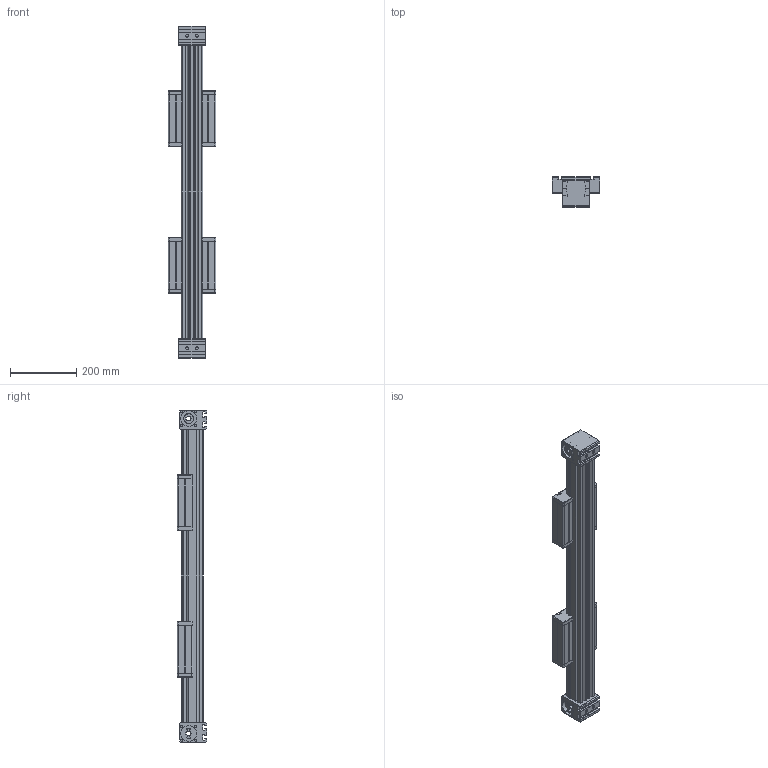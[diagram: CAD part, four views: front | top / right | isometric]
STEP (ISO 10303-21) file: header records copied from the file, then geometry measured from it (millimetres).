
FILE_DESCRIPTION (( 'STEP AP214' ), '1' );
FILE_NAME ('ELZZ60.STEP', '2022-07-19T13:12:46', ( '' ), ( '' ), 'SwSTEP 2.0', 'SolidWorks 2020', '' );
FILE_SCHEMA (( 'AUTOMOTIVE_DESIGN' ));
Length unit declared in the file: millimetre
Products named in the file (4): timing belt reverse unit^ELZZ60_coupling claw pos.1; carriage^ELZZ60_carriage version 0; ELZZ60; profile^ELZZ60_2x guide rods
Assembly tree (5 placements, depth 2):
  ELZZ60
    profile^ELZZ60_2x guide rods
    carriage^ELZZ60_carriage version 0  x2
    timing belt reverse unit^ELZZ60_coupling claw pos.1  x2
Bounding box: 144 x 90 x 1000 mm (x, y, z)
Volume: 5019884.9 mm3; surface area: 723675.7 mm2
Topology: 13 solids, 13 shells, 582 faces, 1554 edges, 1024 vertices
Faces by surface type: plane 386, cylinder 176, torus 16, cone 4
Entity records: 11375 total; most frequent: CARTESIAN_POINT 1755, DIRECTION 1724, ORIENTED_EDGE 1716, EDGE_CURVE 858, LINE 654, VECTOR 654, VERTEX_POINT 566, AXIS2_PLACEMENT_3D 535
